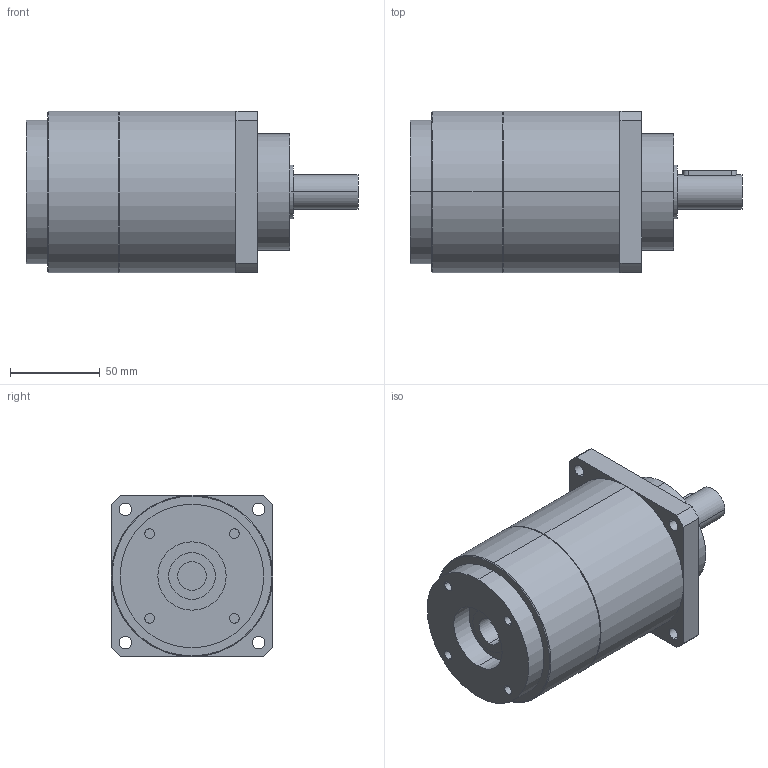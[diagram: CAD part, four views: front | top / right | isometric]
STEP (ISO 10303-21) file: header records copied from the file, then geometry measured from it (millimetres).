
FILE_DESCRIPTION(('CoCreate Modeling STEP Export'),'2;1');
FILE_NAME('GPT90_ig-9-12-16-20-25-28-35-40-50-70-100_19_B5T_15.87_P01.stp','2015-02-04T11:31:03',(''),(''),'CoCreate Modeling STEP processor for AP214 (Solid Model)','CoCreate Modeling 16.00C 25-Feb-2009 (C) Parametric Technology GmbH','');
FILE_SCHEMA(('AUTOMOTIVE_DESIGN { 1 0 10303 214 1 1 1 1 }'));
Length unit declared in the file: millimetre
Products named in the file (2): GPT90_ig-9-12-16-20-25-28-35-40-50-70-100_19_B5T_15.87_P01
Assembly tree (1 placements, depth 2):
  GPT90_ig-9-12-16-20-25-28-35-40-50-70-100_19_B5T_15.87_P01
    GPT90_ig-9-12-16-20-25-28-35-40-50-70-100_19_B5T_15.87_P01
Bounding box: 185 x 90 x 90 mm (x, y, z)
Volume: 874021.8 mm3; surface area: 64606 mm2
Topology: 1 solids, 1 shells, 72 faces, 182 edges, 125 vertices
Faces by surface type: cylinder 42, plane 26, cone 4
Entity records: 2313 total; most frequent: CARTESIAN_POINT 692, ORIENTED_EDGE 364, DIRECTION 272, EDGE_CURVE 182, VERTEX_POINT 125, AXIS2_PLACEMENT_3D 102, EDGE_LOOP 93, FACE_OUTER_BOUND 72
